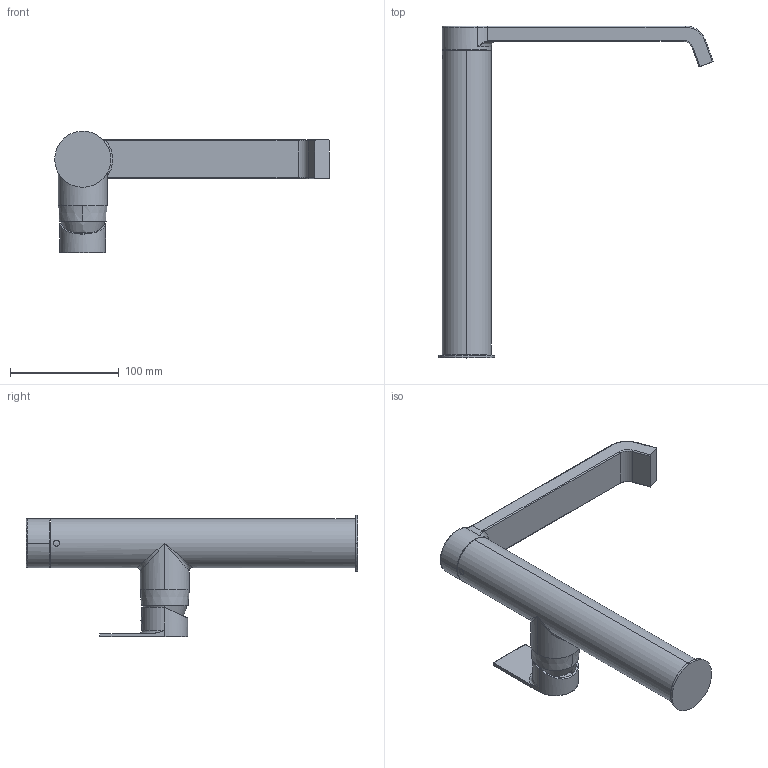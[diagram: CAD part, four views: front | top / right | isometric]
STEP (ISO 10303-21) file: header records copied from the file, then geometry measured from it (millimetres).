
FILE_DESCRIPTION((''),'2;1');
FILE_NAME('83165_SW0001','2020-09-14T16:36:17',('carloff'),(''),'CREO PARAMETRIC BY PTC INC, 2018100','CREO PARAMETRIC BY PTC INC, 2018100','');
FILE_SCHEMA(('CONFIG_CONTROL_DESIGN'));
Length unit declared in the file: millimetre
Products named in the file (1): 83165_SW0001
Bounding box: 252.33 x 305 x 111.75 mm (x, y, z)
Surface area: 87702.1 mm2 (no closed solid volume)
Topology: 0 solids, 8 shells, 89 faces, 210 edges, 121 vertices
Faces by surface type: cylinder 34, plane 17, torus 14, bspline 12, cone 6, sphere 6
Entity records: 3345 total; most frequent: CARTESIAN_POINT 1349, DIRECTION 430, ORIENTED_EDGE 385, EDGE_CURVE 207, AXIS2_PLACEMENT_3D 180, VERTEX_POINT 121, CIRCLE 103, EDGE_LOOP 89
